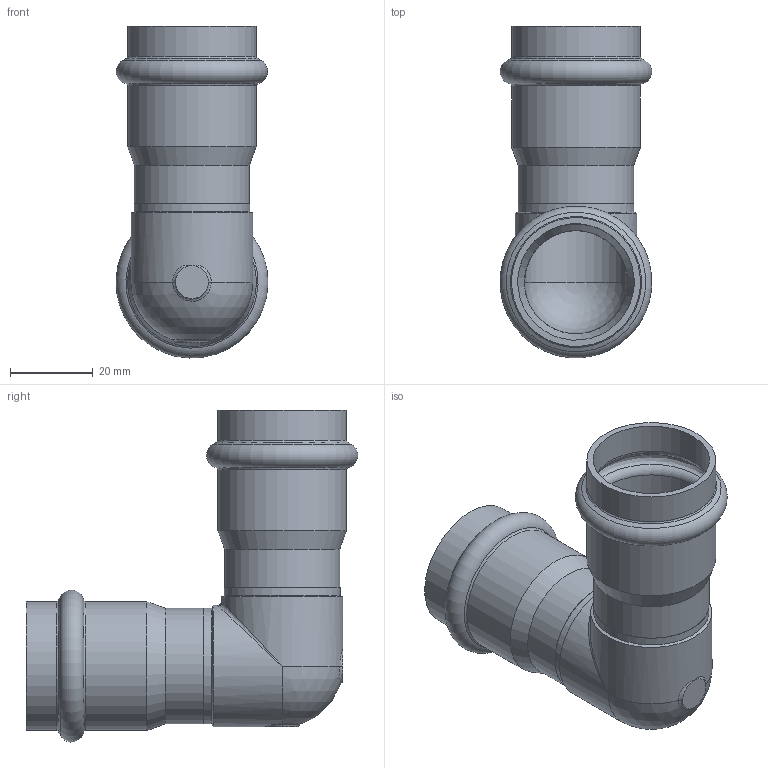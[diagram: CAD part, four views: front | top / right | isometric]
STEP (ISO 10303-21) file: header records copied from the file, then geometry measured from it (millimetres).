
FILE_DESCRIPTION((''),'2;1');
FILE_NAME('G:\Nirosan-Schmiedefeld\Technics\CAD\Bauteile VA\028\6909028(0).stp','2009-05-08T09:32:13',('herberg'),(''),'Autodesk Inventor 2009','Autodesk Inventor 2009','');
FILE_SCHEMA(('AUTOMOTIVE_DESIGN { 1 0 10303 214 1 1 1 1 }'));
Length unit declared in the file: millimetre
Products named in the file (3): 6909028(0); B_6909028(0); 6924328HM(1)
Assembly tree (3 placements, depth 2):
  6909028(0)
    B_6909028(0)
    6924328HM(1)  x2
Bounding box: 36.76 x 80.33 x 80.38 mm (x, y, z)
Volume: 19283.9 mm3; surface area: 24027.4 mm2
Topology: 3 solids, 3 shells, 58 faces, 124 edges, 63 vertices
Faces by surface type: cylinder 18, bspline 14, cone 10, plane 8, torus 6, sphere 2
Full cylindrical faces by diameter (mm): 25 x4, 28 x4, 28.2 x4, 29.4 x2, 31.2 x4
Entity records: 2225 total; most frequent: CARTESIAN_POINT 1402, DIRECTION 168, ORIENTED_EDGE 114, AXIS2_PLACEMENT_3D 84, EDGE_LOOP 68, EDGE_CURVE 57, VERTEX_POINT 45, CIRCLE 45
